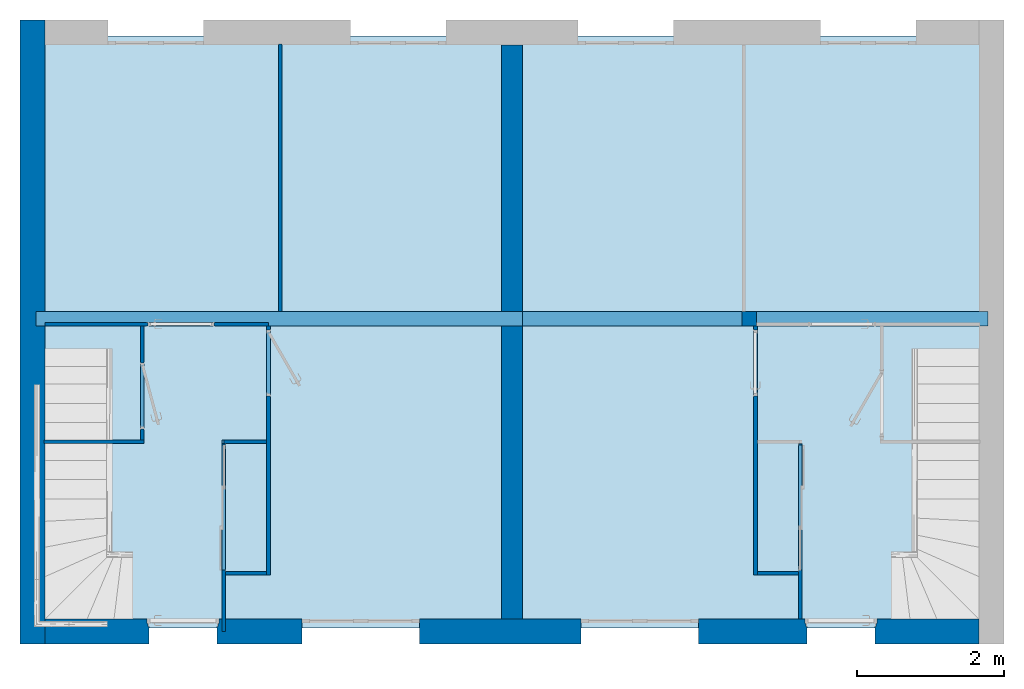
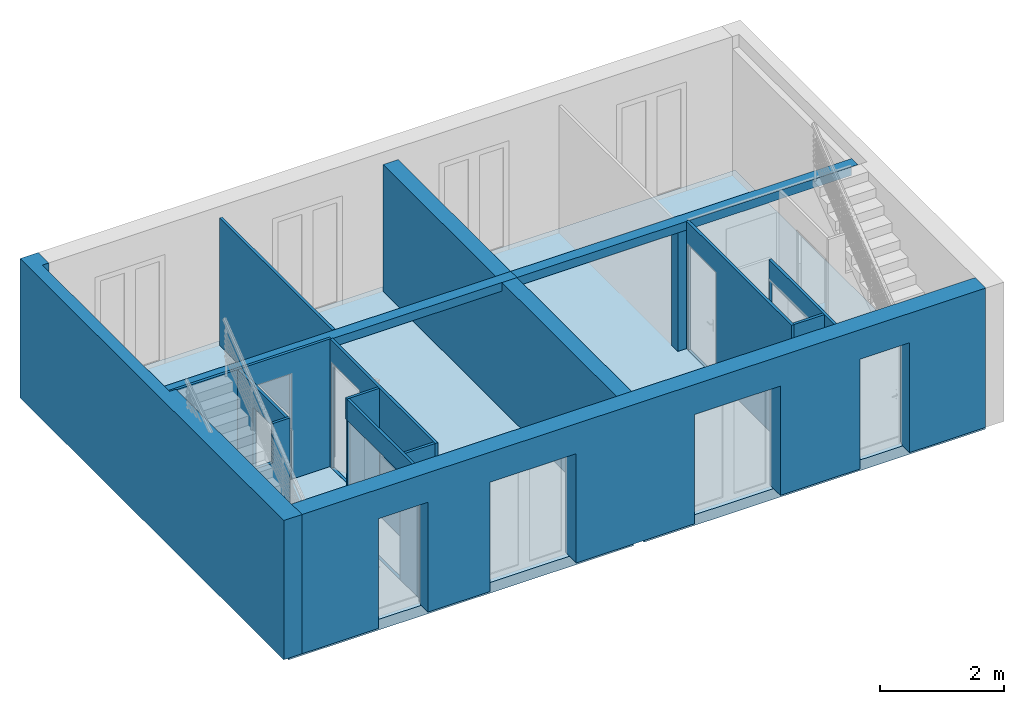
# One storey, part 1 of 13: 14 walls, 2 beams, 2 slabs, 1 column.
"""IFC2X3 building model written with IfcOpenShell, lengths in millimetres."""

from ifc_helpers import new_model, entity, si_unit, converted_unit, direction, frame, origin, origin_with_axes, place, context, project, spatial, faceted_brep, element, save


model = new_model("IFC2X3")

# Units and contexts
model_context = context("Model", 3, precision=1e-05, world=origin(), true_north=direction((0.0, 1.0, 0.0)))
ifc_project = project(units=[si_unit("LENGTHUNIT", "METRE", prefix="MILLI"), si_unit("AREAUNIT", "SQUARE_METRE"), si_unit("VOLUMEUNIT", "CUBIC_METRE"), converted_unit("PLANEANGLEUNIT", "DEGREE", entity("IfcPlaneAngleMeasure", 0.01745), si_unit("PLANEANGLEUNIT", "RADIAN"), dimensions=[0, 0, 0, 0, 0, 0, 0]), si_unit("SOLIDANGLEUNIT", "STERADIAN"), si_unit("MASSUNIT", "GRAM"), si_unit("TIMEUNIT", "SECOND"), si_unit("THERMODYNAMICTEMPERATUREUNIT", "DEGREE_CELSIUS"), si_unit("LUMINOUSINTENSITYUNIT", "LUMEN")], contexts=[model_context])

# Site, building, storey
placement = place(None, origin_with_axes())
site_placement = place(placement, frame((11636.08881703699, 2815.7442167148, 4.768371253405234e-06), z_axis=(0.0, 0.0, 1.0), x_axis=(1.0, 0.0, 0.0)))
site = spatial("IfcSite", under=ifc_project, at=site_placement, Name="Surface", CompositionType="ELEMENT")
building_placement = place(placement, origin_with_axes())
building = spatial("IfcBuilding", under=site, at=building_placement, Name="Default Building", CompositionType="ELEMENT")
storey_placement = place(building_placement, origin_with_axes())
storey = spatial("IfcBuildingStorey", under=building, at=storey_placement, Name="Rez de chaussée", CompositionType="ELEMENT", Elevation=0.0)

# Column
column_placement = place(storey_placement, frame((11636.08881703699, 2815.7442167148, 4.768371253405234e-06), z_axis=(0.0, 0.0, 1.0), x_axis=(1.0, 0.0, 0.0)))
element("IfcColumn", 1, at=column_placement, inside=storey, Name="IfcColumn - Poteau rectangulaire:200 x 200 mm", context=model_context, shape_type="Brep", body=[
    faceted_brep([(-1806.088820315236, 1714.255784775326, 2330.00002861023), (-1606.088817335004, 1514.255781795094, 2330.00002861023), (-1606.088817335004, 1714.255784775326, 2330.00002861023), (-1806.088820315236, 1514.255781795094, 2330.00002861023), (-1606.088817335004, 1714.255784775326, -610.0000286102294), (-1806.088820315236, 1514.255781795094, -610.0000286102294), (-1806.088820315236, 1714.255784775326, -610.0000286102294), (-1606.088817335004, 1514.255781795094, -610.0000286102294)], [[[0, 1, 2]], [[0, 3, 1]], [[4, 5, 6]], [[4, 7, 5]], [[3, 6, 5]], [[3, 0, 6]], [[1, 5, 7]], [[1, 3, 5]], [[2, 7, 4]], [[2, 1, 7]], [[0, 4, 6]], [[0, 2, 4]]]),
])

# Beams
beam_1_placement = place(storey_placement, frame((11636.08881703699, 2815.7442167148, 4.768371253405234e-06), z_axis=(0.0, 0.0, 1.0), x_axis=(1.0, 0.0, 0.0)))
element("IfcBeam", 2, at=beam_1_placement, inside=storey, Name="IfcBeam - Poutre rectangulaire - Béton:200 x 400 mm", context=model_context, shape_type="Brep", body=[
    faceted_brep([(-4796.088895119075, 1514.255781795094, 2500.000000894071), (1543.911257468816, 1714.255784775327, 2500.000000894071), (-4796.088895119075, 1714.255784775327, 2500.000000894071), (1543.911257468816, 1514.255781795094, 2500.000000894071), (1543.911257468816, 1514.255781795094, 2497.999996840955), (1543.911257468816, 1714.255784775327, 2497.999996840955), (1423.911133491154, 1514.255781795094, 2497.999996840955), (1423.911133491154, 1714.255784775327, 2497.999996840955), (-4796.088895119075, 1514.255781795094, 2329.999999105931), (-4796.088895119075, 1714.255784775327, 2497.999996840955), (-4796.088895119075, 1714.255784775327, 2329.999999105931), (1423.911133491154, 1514.255781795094, 2329.999999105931), (1423.911133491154, 1714.255784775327, 2329.999999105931), (-4796.088895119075, 1514.255781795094, 2497.999996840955)], [[[0, 1, 2]], [[0, 3, 1]], [[4, 1, 3]], [[4, 5, 1]], [[6, 5, 4]], [[6, 7, 5]], [[2, 8, 0]], [[9, 8, 2]], [[8, 9, 10]], [[7, 11, 12]], [[7, 6, 11]], [[9, 12, 10]], [[9, 7, 12]], [[2, 5, 9]], [[5, 2, 1]], [[12, 8, 10]], [[12, 11, 8]], [[8, 6, 13]], [[6, 8, 11]], [[13, 3, 0]], [[6, 3, 13]], [[3, 6, 4]]]),
])
beam_2_placement = place(storey_placement, frame((11636.08881703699, 2815.7442167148, 4.768371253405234e-06), z_axis=(0.0, 0.0, 1.0), x_axis=(1.0, 0.0, 0.0)))
element("IfcBeam", 3, at=beam_2_placement, inside=storey, Name="IfcBeam - Poutre rectangulaire - Béton:200 x 400 mm", context=model_context, shape_type="Brep", body=[
    faceted_brep([(-11416.08876160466, 1514.255781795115, 2500.000000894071), (-4796.088876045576, 1714.255784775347, 2500.000000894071), (-11416.08876160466, 1714.255784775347, 2500.000000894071), (-4796.088876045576, 1514.255781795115, 2500.000000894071), (-4796.088876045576, 1514.255781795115, 2497.999996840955), (-4796.088876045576, 1714.255784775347, 2497.999996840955), (-11416.08876160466, 1714.255784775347, 2497.999996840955), (-11416.08876160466, 1514.255781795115, 2497.999996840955), (-11296.08887604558, 1714.255784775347, 2497.999996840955), (-11296.08887604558, 1514.255781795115, 2497.999996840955), (-5076.088847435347, 1514.255781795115, 2497.999996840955), (-5076.088847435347, 1714.255784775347, 2497.999996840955), (-11296.08887604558, 1714.255784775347, 2329.999999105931), (-11296.08887604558, 1514.255781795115, 2329.999999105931), (-5076.088847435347, 1514.255781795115, 2329.999999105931), (-5076.088847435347, 1714.255784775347, 2329.999999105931)], [[[0, 1, 2]], [[0, 3, 1]], [[4, 1, 3]], [[4, 5, 1]], [[6, 0, 2]], [[6, 7, 0]], [[8, 7, 6]], [[8, 9, 7]], [[10, 5, 4]], [[10, 11, 5]], [[9, 12, 13]], [[9, 8, 12]], [[11, 14, 15]], [[11, 10, 14]], [[2, 5, 6]], [[5, 2, 1]], [[8, 15, 12]], [[15, 8, 11]], [[15, 13, 12]], [[15, 14, 13]], [[13, 10, 9]], [[10, 13, 14]], [[7, 3, 0]], [[9, 3, 7]], [[10, 3, 9]], [[3, 10, 4]]]),
])

# Slabs
slab_1_placement = place(storey_placement, frame((11636.08881703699, 2815.7442167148, 4.768371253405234e-06), z_axis=(0.0, 0.0, 1.0), x_axis=(1.0, 0.0, 0.0)))
element("IfcSlab", 4, at=slab_1_placement, inside=storey, Name="IfcSlab - Sol:Dalle en béton - 13", context=model_context, shape_type="Brep", body=[
    faceted_brep([(-11416.08874253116, -2595.744426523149, -209.9999967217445), (-5006.088895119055, 5464.25599309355, -209.9999967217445), (-5006.088895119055, -2595.744426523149, -209.9999967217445), (-11416.08874253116, 5464.25599309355, -209.9999967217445), (-5006.088895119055, -2595.744426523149, -3.278255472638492e-06), (-11416.08874253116, 5464.25599309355, -3.278255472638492e-06), (-11416.08874253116, -2595.744426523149, -3.278255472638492e-06), (-5006.088895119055, 5464.25599309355, -3.278255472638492e-06)], [[[0, 1, 2]], [[0, 3, 1]], [[4, 5, 6]], [[4, 7, 5]], [[3, 6, 5]], [[3, 0, 6]], [[1, 5, 7]], [[1, 3, 5]], [[2, 7, 4]], [[2, 1, 7]], [[0, 4, 6]], [[0, 2, 4]]]),
])
slab_2_placement = place(storey_placement, frame((11636.08881703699, 2815.7442167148, 4.768371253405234e-06), z_axis=(0.0, 0.0, 1.0), x_axis=(1.0, 0.0, 0.0)))
element("IfcSlab", 5, at=slab_2_placement, inside=storey, Name="IfcSlab - Sol:Dalle en béton - 13", context=model_context, shape_type="Brep", body=[
    faceted_brep([(-4806.088771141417, -2595.744426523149, -209.9999967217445), (1543.911133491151, 5464.25599309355, -209.9999967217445), (1543.911133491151, -2595.744426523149, -209.9999967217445), (-4806.088771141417, 5464.25599309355, -209.9999967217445), (1543.911133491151, -2595.744426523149, -3.278255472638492e-06), (-4806.088771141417, 5464.25599309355, -3.278255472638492e-06), (-4806.088771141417, -2595.744426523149, -3.278255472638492e-06), (1543.911133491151, 5464.25599309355, -3.278255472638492e-06)], [[[0, 1, 2]], [[0, 3, 1]], [[4, 5, 6]], [[4, 7, 5]], [[3, 6, 5]], [[3, 0, 6]], [[1, 5, 7]], [[1, 3, 5]], [[2, 7, 4]], [[2, 1, 7]], [[0, 4, 6]], [[0, 2, 4]]]),
])

# Walls
wall_1_placement = place(storey_placement, frame((11636.08881703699, 2815.7442167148, 4.768371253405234e-06), z_axis=(0.0, 0.0, 1.0), x_axis=(1.0, 0.0, 0.0)))
element("IfcWallStandardCase", 6, at=wall_1_placement, inside=storey, Name="IfcWallStandardCase - Mur de base:Int. plâtre 50 mm", context=model_context, shape_type="Brep", body=[
    faceted_brep([(-986.0888184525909, -1805.744192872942, 2.220446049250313e-13), (-1036.088819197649, -105.7442643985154, 2.220446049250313e-13), (-1036.088819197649, -1805.744192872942, 2.220446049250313e-13), (-986.0888184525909, -105.7442643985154, 2.220446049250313e-13), (-1036.088819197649, -105.7442643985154, 2100.000023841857), (-986.0888184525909, -105.7442643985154, 2100.000023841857), (-1036.088819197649, -1805.744192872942, 2100.000023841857), (-986.0888184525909, -1805.744192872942, 2100.000023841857), (-986.0888184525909, -2475.744269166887, 2509.999990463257), (-1036.088819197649, -2475.744269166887, -9.999990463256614), (-986.0888184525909, -2475.744269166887, -9.999990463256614), (-1036.088819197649, -2475.744269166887, 2509.999990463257), (-1036.088819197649, -85.74416426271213, 2509.999990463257), (-986.0888184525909, -85.74416426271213, 2509.999990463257), (-986.0888184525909, -85.74416426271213, -9.999990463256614), (-1036.088819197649, -85.74416426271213, -9.999990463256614)], [[[0, 1, 2]], [[0, 3, 1]], [[3, 4, 1]], [[3, 5, 4]], [[5, 6, 4]], [[5, 7, 6]], [[7, 2, 6]], [[7, 0, 2]], [[8, 9, 10]], [[8, 11, 9]], [[12, 8, 13]], [[12, 11, 8]], [[14, 9, 15]], [[14, 10, 9]], [[10, 0, 8]], [[10, 3, 0]], [[3, 14, 5]], [[14, 3, 10]], [[7, 8, 0]], [[5, 8, 7]], [[5, 13, 8]], [[13, 5, 14]], [[15, 1, 12]], [[15, 2, 1]], [[2, 9, 6]], [[9, 2, 15]], [[4, 12, 1]], [[6, 12, 4]], [[6, 11, 12]], [[11, 6, 9]], [[12, 14, 15]], [[12, 13, 14]]]),
])
wall_2_placement = place(storey_placement, frame((11636.08881703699, 2815.7442167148, 4.768371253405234e-06), z_axis=(0.0, 0.0, 1.0), x_axis=(1.0, 0.0, 0.0)))
element("IfcWallStandardCase", 7, at=wall_2_placement, inside=storey, Name="IfcWallStandardCase - Mur de base:Int. plâtre 50 mm", context=model_context, shape_type="Brep", body=[
    faceted_brep([(-1596.088820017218, -1875.744217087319, 2509.999990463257), (-1036.088817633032, -1825.744216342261, 2509.999990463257), (-1596.088820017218, -1825.744216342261, 2509.999990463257), (-1036.088817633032, -1875.744217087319, 2509.999990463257), (-1596.088820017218, -1825.744216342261, -9.999990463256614), (-1036.088817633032, -1875.744217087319, -9.999990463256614), (-1596.088820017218, -1875.744217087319, -9.999990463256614), (-1036.088817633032, -1825.744216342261, -9.999990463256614)], [[[0, 1, 2]], [[0, 3, 1]], [[4, 5, 6]], [[4, 7, 5]], [[3, 6, 5]], [[3, 0, 6]], [[1, 5, 7]], [[1, 3, 5]], [[2, 7, 4]], [[2, 1, 7]], [[0, 4, 6]], [[0, 2, 4]]]),
])
wall_3_placement = place(storey_placement, frame((11636.08881703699, 2815.7442167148, 4.768371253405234e-06), z_axis=(0.0, 0.0, 1.0), x_axis=(1.0, 0.0, 0.0)))
element("IfcWallStandardCase", 8, at=wall_3_placement, inside=storey, Name="IfcWallStandardCase - Mur de base:Int. plâtre 50 mm", context=model_context, shape_type="Brep", body=[
    faceted_brep([(-1596.088818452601, 1464.255764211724, 2.220446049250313e-13), (-1646.088819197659, 1464.255764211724, 2074.999988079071), (-1646.088819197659, 1464.255764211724, 2.220446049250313e-13), (-1596.088818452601, 1464.255764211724, 2074.999988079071), (-1646.088819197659, 564.2557880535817, 2074.999988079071), (-1596.088818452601, 564.2557880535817, 2074.999988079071), (-1646.088819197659, 564.2557880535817, 2.220446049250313e-13), (-1596.088818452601, 564.2557880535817, 2.220446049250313e-13), (-1596.088818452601, -1875.744269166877, 2509.999990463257), (-1646.088819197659, -1875.744269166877, -9.999990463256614), (-1596.088818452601, -1875.744269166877, -9.999990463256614), (-1646.088819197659, -1875.744269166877, 2509.999990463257), (-1646.088819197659, 1514.255835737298, 2509.999990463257), (-1596.088818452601, 1514.255835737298, 2509.999990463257), (-1596.088818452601, 1514.255835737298, -9.999990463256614), (-1646.088819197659, 1514.255835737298, -9.999990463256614)], [[[0, 1, 2]], [[0, 3, 1]], [[3, 4, 1]], [[3, 5, 4]], [[5, 6, 4]], [[5, 7, 6]], [[7, 2, 6]], [[7, 0, 2]], [[8, 9, 10]], [[8, 11, 9]], [[12, 8, 13]], [[12, 11, 8]], [[14, 9, 15]], [[14, 10, 9]], [[10, 0, 7]], [[0, 14, 3]], [[14, 0, 10]], [[7, 8, 10]], [[5, 8, 7]], [[3, 8, 5]], [[3, 13, 8]], [[13, 3, 14]], [[15, 2, 12]], [[15, 6, 2]], [[6, 9, 4]], [[9, 6, 15]], [[1, 12, 2]], [[4, 12, 1]], [[4, 11, 12]], [[11, 4, 9]], [[12, 14, 15]], [[12, 13, 14]]]),
])
wall_4_placement = place(storey_placement, frame((11636.08881703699, 2815.7442167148, 4.768371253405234e-06), z_axis=(0.0, 0.0, 1.0), x_axis=(1.0, 0.0, 0.0)))
element("IfcWallStandardCase", 9, at=wall_4_placement, inside=storey, Name="IfcWallStandardCase - Mur de base:Int. plâtre 50 mm", context=model_context, shape_type="Brep", body=[
    faceted_brep([(-8886.088819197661, -105.7442262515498, 2.220446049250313e-13), (-8836.088818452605, -1805.744214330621, 2.220446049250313e-13), (-8836.088818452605, -105.7442262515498, 2.220446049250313e-13), (-8886.088819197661, -1805.744214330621, 2.220446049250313e-13), (-8836.088818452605, -1805.744214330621, 2100.000023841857), (-8886.088819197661, -1805.744214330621, 2100.000023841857), (-8836.088818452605, -105.7442262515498, 2100.000023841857), (-8886.088819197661, -105.7442262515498, 2100.000023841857), (-8886.088819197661, -85.7442453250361, 2509.999990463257), (-8836.088818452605, -85.7442453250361, -9.999990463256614), (-8886.088819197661, -85.7442453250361, -9.999990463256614), (-8836.088818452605, -85.7442453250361, 2509.999990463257), (-8836.088818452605, -2645.744188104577, 2509.999990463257), (-8886.088819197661, -2645.744188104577, 2509.999990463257), (-8886.088819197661, -2645.744188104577, -9.999990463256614), (-8836.088818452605, -2645.744188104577, -9.999990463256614)], [[[0, 1, 2]], [[0, 3, 1]], [[3, 4, 1]], [[3, 5, 4]], [[5, 6, 4]], [[5, 7, 6]], [[7, 2, 6]], [[7, 0, 2]], [[8, 9, 10]], [[8, 11, 9]], [[12, 8, 13]], [[12, 11, 8]], [[14, 9, 15]], [[14, 10, 9]], [[10, 7, 8]], [[10, 0, 7]], [[10, 3, 0]], [[3, 14, 5]], [[14, 3, 10]], [[5, 8, 7]], [[5, 13, 8]], [[13, 5, 14]], [[15, 1, 12]], [[15, 2, 1]], [[2, 9, 6]], [[9, 2, 15]], [[4, 12, 1]], [[6, 12, 4]], [[6, 11, 12]], [[11, 6, 9]], [[12, 14, 15]], [[12, 13, 14]]]),
])
wall_5_placement = place(storey_placement, frame((11636.08881703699, 2815.7442167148, 4.768371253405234e-06), z_axis=(0.0, 0.0, 1.0), x_axis=(1.0, 0.0, 0.0)))
element("IfcWallStandardCase", 10, at=wall_5_placement, inside=storey, Name="IfcWallStandardCase - Mur de base:Int. plâtre 50 mm", context=model_context, shape_type="Brep", body=[
    faceted_brep([(-8836.088820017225, -1875.744217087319, 2509.999990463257), (-8276.088817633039, -1825.744216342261, 2509.999990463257), (-8836.088820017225, -1825.744216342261, 2509.999990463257), (-8276.088817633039, -1875.744217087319, 2509.999990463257), (-8836.088820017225, -1825.744216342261, -9.999990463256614), (-8276.088817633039, -1875.744217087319, -9.999990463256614), (-8836.088820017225, -1875.744217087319, -9.999990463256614), (-8276.088817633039, -1825.744216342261, -9.999990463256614)], [[[0, 1, 2]], [[0, 3, 1]], [[4, 5, 6]], [[4, 7, 5]], [[3, 6, 5]], [[3, 0, 6]], [[1, 5, 7]], [[1, 3, 5]], [[2, 7, 4]], [[2, 1, 7]], [[0, 4, 6]], [[0, 2, 4]]]),
])
wall_6_placement = place(storey_placement, frame((11636.08881703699, 2815.7442167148, 4.768371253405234e-06), z_axis=(0.0, 0.0, 1.0), x_axis=(1.0, 0.0, 0.0)))
element("IfcWallStandardCase", 11, at=wall_6_placement, inside=storey, Name="IfcWallStandardCase - Mur de base:Int. plâtre 50 mm", context=model_context, shape_type="Brep", body=[
    faceted_brep([(-8276.088819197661, 564.2557880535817, 2.220446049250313e-13), (-8226.088818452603, 564.2557880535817, 2074.999988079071), (-8226.088818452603, 564.2557880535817, 2.220446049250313e-13), (-8276.088819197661, 564.2557880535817, 2074.999988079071), (-8226.088818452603, 1464.255764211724, 2074.999988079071), (-8276.088819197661, 1464.255764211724, 2074.999988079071), (-8226.088818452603, 1464.255764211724, 2.220446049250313e-13), (-8276.088819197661, 1464.255764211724, 2.220446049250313e-13), (-8276.088819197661, 1514.255835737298, 2509.999990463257), (-8226.088818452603, 1514.255835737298, -9.999990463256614), (-8276.088819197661, 1514.255835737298, -9.999990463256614), (-8226.088818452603, 1514.255835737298, 2509.999990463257), (-8226.088818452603, -1875.744269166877, 2509.999990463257), (-8276.088819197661, -1875.744269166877, 2509.999990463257), (-8276.088819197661, -1875.744269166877, -9.999990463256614), (-8226.088818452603, -1875.744269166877, -9.999990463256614)], [[[0, 1, 2]], [[0, 3, 1]], [[3, 4, 1]], [[3, 5, 4]], [[5, 6, 4]], [[5, 7, 6]], [[7, 2, 6]], [[7, 0, 2]], [[8, 9, 10]], [[8, 11, 9]], [[12, 8, 13]], [[12, 11, 8]], [[14, 9, 15]], [[14, 10, 9]], [[10, 7, 8]], [[10, 0, 7]], [[0, 14, 3]], [[14, 0, 10]], [[5, 8, 7]], [[3, 8, 5]], [[3, 13, 8]], [[13, 3, 14]], [[15, 2, 12]], [[15, 6, 2]], [[6, 9, 4]], [[9, 6, 15]], [[1, 12, 2]], [[4, 12, 1]], [[4, 11, 12]], [[11, 4, 9]], [[12, 14, 15]], [[12, 13, 14]]]),
])
wall_7_placement = place(storey_placement, frame((11636.08881703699, 2815.7442167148, 4.768371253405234e-06), z_axis=(0.0, 0.0, 1.0), x_axis=(1.0, 0.0, 0.0)))
element("IfcWallStandardCase", 12, at=wall_7_placement, inside=storey, Name="IfcWallStandardCase - Mur de base:Int. plâtre 50 mm", context=model_context, shape_type="Brep", body=[
    faceted_brep([(-9996.088819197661, 114.2557832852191, 2.220446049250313e-13), (-9946.088818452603, 114.2557832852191, 2074.999988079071), (-9946.088818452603, 114.2557832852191, 2.220446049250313e-13), (-9996.088819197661, 114.2557832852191, 2074.999988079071), (-9946.088818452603, 1014.255789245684, 2074.999988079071), (-9996.088819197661, 1014.255789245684, 2074.999988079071), (-9946.088818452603, 1014.255789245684, 2.220446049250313e-13), (-9996.088819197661, 1014.255789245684, 2.220446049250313e-13), (-9996.088819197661, 1514.255759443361, 2509.999990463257), (-9946.088818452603, 1514.255759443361, -9.999990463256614), (-9996.088819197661, 1514.255759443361, -9.999990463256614), (-9946.088818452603, 1514.255759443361, 2509.999990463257), (-9946.088818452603, -35.74419287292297, 2509.999990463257), (-9996.088819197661, -35.74419287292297, 2509.999990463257), (-9996.088819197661, -35.74419287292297, -9.999990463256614), (-9946.088818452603, -35.74419287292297, -9.999990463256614)], [[[0, 1, 2]], [[0, 3, 1]], [[3, 4, 1]], [[3, 5, 4]], [[5, 6, 4]], [[5, 7, 6]], [[7, 2, 6]], [[7, 0, 2]], [[8, 9, 10]], [[8, 11, 9]], [[12, 8, 13]], [[12, 11, 8]], [[14, 9, 15]], [[14, 10, 9]], [[10, 7, 8]], [[10, 0, 7]], [[0, 14, 3]], [[14, 0, 10]], [[5, 8, 7]], [[3, 8, 5]], [[3, 13, 8]], [[13, 3, 14]], [[15, 2, 12]], [[15, 6, 2]], [[6, 9, 4]], [[9, 6, 15]], [[1, 12, 2]], [[4, 12, 1]], [[4, 11, 12]], [[11, 4, 9]], [[12, 14, 15]], [[12, 13, 14]]]),
])
wall_8_placement = place(storey_placement, frame((11636.08881703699, 2815.7442167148, 4.768371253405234e-06), z_axis=(0.0, 0.0, 1.0), x_axis=(1.0, 0.0, 0.0)))
element("IfcWallStandardCase", 13, at=wall_8_placement, inside=storey, Name="IfcWallStandardCase - Mur de base:Int. plâtre 50 mm", context=model_context, shape_type="Brep", body=[
    faceted_brep([(-8996.088845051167, 1514.255782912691, 2.220446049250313e-13), (-8996.088845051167, 1564.255783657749, 2074.999988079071), (-8996.088845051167, 1564.255783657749, 2.220446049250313e-13), (-8996.088845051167, 1514.255782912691, 2074.999988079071), (-9896.088821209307, 1564.255783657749, 2074.999988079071), (-9896.088821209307, 1514.255782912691, 2074.999988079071), (-9896.088821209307, 1564.255783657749, 2.220446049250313e-13), (-9896.088821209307, 1514.255782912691, 2.220446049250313e-13), (-11296.08885697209, 1514.255782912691, 2509.999990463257), (-11296.08885697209, 1564.255783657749, -9.999990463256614), (-11296.08885697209, 1514.255782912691, -9.999990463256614), (-11296.08885697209, 1564.255783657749, 2509.999990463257), (-8251.088780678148, 1564.255783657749, 2509.999990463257), (-8251.088780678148, 1514.255782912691, 2509.999990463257), (-8251.088780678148, 1514.255782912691, -9.999990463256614), (-8251.088780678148, 1564.255783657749, -9.999990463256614)], [[[0, 1, 2]], [[0, 3, 1]], [[3, 4, 1]], [[3, 5, 4]], [[5, 6, 4]], [[5, 7, 6]], [[7, 2, 6]], [[7, 0, 2]], [[8, 9, 10]], [[8, 11, 9]], [[12, 8, 13]], [[12, 11, 8]], [[14, 9, 15]], [[14, 10, 9]], [[10, 7, 8]], [[10, 0, 7]], [[0, 14, 3]], [[14, 0, 10]], [[5, 8, 7]], [[3, 8, 5]], [[3, 13, 8]], [[13, 3, 14]], [[15, 2, 12]], [[15, 6, 2]], [[6, 9, 4]], [[9, 6, 15]], [[1, 12, 2]], [[4, 12, 1]], [[4, 11, 12]], [[11, 4, 9]], [[12, 14, 15]], [[12, 13, 14]]]),
])
wall_9_placement = place(storey_placement, frame((11636.08881703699, 2815.7442167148, 4.768371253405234e-06), z_axis=(0.0, 0.0, 1.0), x_axis=(1.0, 0.0, 0.0)))
element("IfcWallStandardCase", 14, at=wall_9_placement, inside=storey, Name="IfcWallStandardCase - Mur de base:Int. plâtre 50 mm", context=model_context, shape_type="Brep", body=[
    faceted_brep([(-8066.088818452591, 1714.255730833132, 2509.999990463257), (-8116.088819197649, 5354.255835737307, 2509.999990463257), (-8116.088819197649, 1714.255730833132, 2509.999990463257), (-8066.088818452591, 5354.255835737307, 2509.999990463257), (-8116.088819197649, 1714.255730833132, -9.999990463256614), (-8066.088818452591, 5354.255835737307, -9.999990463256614), (-8066.088818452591, 1714.255730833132, -9.999990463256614), (-8116.088819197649, 5354.255835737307, -9.999990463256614)], [[[0, 1, 2]], [[0, 3, 1]], [[4, 5, 6]], [[4, 7, 5]], [[3, 6, 5]], [[3, 0, 6]], [[1, 5, 7]], [[1, 3, 5]], [[2, 7, 4]], [[2, 1, 7]], [[0, 4, 6]], [[0, 2, 4]]]),
])
wall_10_placement = place(storey_placement, frame((11636.08881703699, 2815.7442167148, 4.768371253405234e-06), z_axis=(0.0, 0.0, 1.0), x_axis=(1.0, 0.0, 0.0)))
element("IfcWallStandardCase", 15, at=wall_10_placement, inside=storey, Name="IfcWallStandardCase - Mur de base:Mur de base Refend Ext. Parpaing 20 + Isolant 7", context=model_context, shape_type="Brep", body=[
    faceted_brep([(-4796.088818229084, -2475.744302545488, 2497.999953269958), (-5076.088819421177, 5344.255869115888, 2497.999953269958), (-5076.088819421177, -2475.744302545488, 2497.999953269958), (-4796.088818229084, 5344.255869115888, 2497.999953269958), (-5076.088819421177, -2475.744302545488, 4.673004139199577e-05), (-4796.088818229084, 5344.255869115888, 4.673004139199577e-05), (-4796.088818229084, -2475.744302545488, 4.673004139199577e-05), (-5076.088819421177, 5344.255869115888, 4.673004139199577e-05)], [[[0, 1, 2]], [[0, 3, 1]], [[4, 5, 6]], [[4, 7, 5]], [[3, 6, 5]], [[3, 0, 6]], [[1, 5, 7]], [[1, 3, 5]], [[2, 7, 4]], [[2, 1, 7]], [[0, 4, 6]], [[0, 2, 4]]]),
])
wall_11_placement = place(storey_placement, frame((11636.08881703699, 2815.7442167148, 4.768371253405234e-06), z_axis=(0.0, 0.0, 1.0), x_axis=(1.0, 0.0, 0.0)))
element("IfcWallStandardCase", 16, at=wall_11_placement, inside=storey, Name="IfcWallStandardCase - Mur de base:Mur de base Ext. Parpaing 20 + Isolant 12", context=model_context, shape_type="Brep", body=[
    faceted_brep([(18.91110488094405, -2532.744218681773, 2175.000007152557), (-931.0887043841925, -2575.744216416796, 2175.000007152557), (-931.0887043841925, -2532.744218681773, 2175.000007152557), (18.91110488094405, -2575.744216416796, 2175.000007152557), (-9891.088742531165, -2532.744218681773, 2175.000007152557), (-8941.088933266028, -2575.744216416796, 2175.000007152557), (-9891.088742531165, -2575.744216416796, 2175.000007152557), (-8941.088933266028, -2532.744218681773, 2175.000007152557), (-8941.088933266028, -2532.744218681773, -4.76837147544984e-06), (-8941.088933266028, -2575.744216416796, -4.76837147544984e-06), (-931.0887043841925, -2532.744218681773, -4.76837147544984e-06), (-931.0887043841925, -2575.744216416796, -4.76837147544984e-06), (33.91097136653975, -2532.744218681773, 2189.999992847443), (-946.0888092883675, -2532.744218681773, 2189.999992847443), (33.91097136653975, -2532.744218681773, -4.76837147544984e-06), (18.91110488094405, -2532.744218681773, -4.76837147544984e-06), (-946.0888092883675, -2532.744218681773, -4.76837147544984e-06), (18.91110488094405, -2575.744216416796, -4.76837147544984e-06), (-916.0888378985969, -2575.744216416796, 2160.000021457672), (3.911238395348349, -2575.744216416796, 2160.000021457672), (3.911238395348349, -2575.744216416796, -4.76837147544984e-06), (-916.0888378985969, -2575.744216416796, -4.76837147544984e-06), (-8956.088799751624, -2575.744216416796, 2160.000021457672), (-8956.088799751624, -2575.744216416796, -4.76837147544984e-06), (-9876.08887604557, -2575.744216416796, 2160.000021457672), (-9876.08887604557, -2575.744216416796, -4.76837147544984e-06), (-9891.088742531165, -2575.744216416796, -4.76837147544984e-06), (-9891.088742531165, -2532.744218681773, -4.76837147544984e-06), (-9906.08860901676, -2532.744218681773, 2189.999992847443), (-9906.08860901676, -2532.744218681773, -4.76837147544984e-06), (-8926.088828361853, -2532.744218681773, 2189.999992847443), (-8926.088828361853, -2532.744218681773, -4.76837147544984e-06), (33.91097136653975, -2475.74421492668, -4.76837147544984e-06), (33.91097136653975, -2475.74421492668, 2189.999992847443), (-946.0888092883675, -2475.74421492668, 2189.999992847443), (-946.0888092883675, -2475.74421492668, -4.76837147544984e-06), (-8926.088828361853, -2475.74421492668, -4.76837147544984e-06), (-8926.088828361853, -2475.74421492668, 2189.999992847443), (-9906.08860901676, -2475.74421492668, 2189.999992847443), (-9906.08860901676, -2475.74421492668, -4.76837147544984e-06), (1423.911314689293, -2475.74421492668, 2740.000004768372), (1423.911314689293, -2815.744218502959, -4.76837147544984e-06), (1423.911314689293, -2475.74421492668, -4.76837147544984e-06), (1423.911314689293, -2815.744218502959, 2740.000004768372), (-9876.08887604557, -2815.744218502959, -4.76837147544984e-06), (-9876.08887604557, -2815.744218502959, 2160.000021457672), (-8956.088799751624, -2815.744218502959, 2160.000021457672), (-8956.088799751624, -2815.744218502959, -4.76837147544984e-06), (-7796.088713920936, -2815.744218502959, -4.76837147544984e-06), (-7796.088713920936, -2475.74421492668, -4.76837147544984e-06), (-7796.088713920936, -2815.744218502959, 2149.999971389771), (-7796.088713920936, -2475.74421492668, 2149.999971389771), (-6196.088809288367, -2815.744218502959, 2149.999971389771), (-6196.088809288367, -2475.74421492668, 2149.999971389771), (-6196.088809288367, -2815.744218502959, -4.76837147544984e-06), (-6196.088809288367, -2475.74421492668, -4.76837147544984e-06), (-3996.088821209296, -2815.744218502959, -4.76837147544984e-06), (-3996.088821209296, -2475.74421492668, -4.76837147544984e-06), (-3996.088821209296, -2815.744218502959, 2149.999971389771), (-3996.088821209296, -2475.74421492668, 2149.999971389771), (-2396.088856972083, -2815.744218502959, 2149.999971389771), (-2396.088856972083, -2475.74421492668, 2149.999971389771), (-2396.088856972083, -2815.744218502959, -4.76837147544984e-06), (-2396.088856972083, -2475.74421492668, -4.76837147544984e-06), (-916.0888378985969, -2815.744218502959, -4.76837147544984e-06), (-916.0888378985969, -2815.744218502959, 2160.000021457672), (3.911238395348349, -2815.744218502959, 2160.000021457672), (3.911238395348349, -2815.744218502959, -4.76837147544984e-06), (-11296.08895233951, -2815.744218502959, 2740.000004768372), (-11296.08895233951, -2475.74421492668, 2740.000004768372), (-11296.08895233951, -2815.744218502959, -4.76837147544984e-06), (-11296.08895233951, -2475.74421492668, -4.76837147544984e-06)], [[[0, 1, 2]], [[0, 3, 1]], [[4, 5, 6]], [[4, 7, 5]], [[5, 8, 9]], [[5, 7, 8]], [[1, 10, 2]], [[1, 11, 10]], [[12, 0, 13]], [[14, 0, 12]], [[0, 14, 15]], [[2, 13, 0]], [[10, 13, 2]], [[13, 10, 16]], [[15, 3, 0]], [[15, 17, 3]], [[1, 18, 11]], [[1, 19, 18]], [[3, 19, 1]], [[3, 20, 19]], [[20, 3, 17]], [[11, 18, 21]], [[5, 22, 6]], [[9, 22, 5]], [[22, 9, 23]], [[24, 6, 22]], [[25, 6, 24]], [[6, 25, 26]], [[27, 6, 26]], [[27, 4, 6]], [[28, 4, 29]], [[28, 7, 4]], [[30, 7, 28]], [[30, 8, 7]], [[8, 30, 31]], [[29, 4, 27]], [[32, 12, 33]], [[32, 14, 12]], [[12, 34, 33]], [[12, 13, 34]], [[13, 35, 34]], [[13, 16, 35]], [[30, 36, 31]], [[30, 37, 36]], [[28, 37, 30]], [[28, 38, 37]], [[39, 28, 29]], [[39, 38, 28]], [[40, 41, 42]], [[40, 43, 41]], [[44, 24, 45]], [[44, 25, 24]], [[45, 22, 46]], [[45, 24, 22]], [[46, 23, 47]], [[46, 22, 23]], [[48, 9, 31]], [[47, 9, 48]], [[9, 47, 23]], [[31, 49, 48]], [[49, 31, 36]], [[31, 9, 8]], [[50, 49, 51]], [[50, 48, 49]], [[52, 51, 53]], [[52, 50, 51]], [[54, 53, 55]], [[54, 52, 53]], [[55, 56, 54]], [[55, 57, 56]], [[58, 57, 59]], [[58, 56, 57]], [[60, 59, 61]], [[60, 58, 59]], [[62, 61, 63]], [[62, 60, 61]], [[64, 11, 21]], [[11, 16, 10]], [[64, 16, 11]], [[16, 63, 35]], [[64, 63, 16]], [[63, 64, 62]], [[64, 18, 65]], [[64, 21, 18]], [[66, 18, 19]], [[66, 65, 18]], [[67, 19, 20]], [[67, 66, 19]], [[41, 14, 42]], [[41, 17, 14]], [[41, 20, 17]], [[20, 41, 67]], [[42, 14, 32]], [[14, 17, 15]], [[68, 40, 69]], [[68, 43, 40]], [[44, 26, 25]], [[26, 29, 27]], [[44, 29, 26]], [[70, 29, 44]], [[70, 39, 29]], [[39, 70, 71]], [[57, 53, 59]], [[53, 57, 55]], [[34, 61, 37]], [[35, 61, 34]], [[61, 35, 63]], [[40, 33, 69]], [[42, 33, 40]], [[33, 42, 32]], [[34, 69, 33]], [[37, 69, 34]], [[38, 69, 37]], [[39, 69, 38]], [[69, 39, 71]], [[59, 37, 61]], [[53, 37, 59]], [[51, 37, 53]], [[49, 37, 51]], [[37, 49, 36]], [[54, 58, 52]], [[58, 54, 56]], [[46, 50, 65]], [[47, 50, 46]], [[50, 47, 48]], [[68, 45, 43]], [[70, 45, 68]], [[45, 70, 44]], [[46, 43, 45]], [[65, 43, 46]], [[66, 43, 65]], [[67, 43, 66]], [[43, 67, 41]], [[52, 65, 50]], [[58, 65, 52]], [[60, 65, 58]], [[62, 65, 60]], [[65, 62, 64]], [[68, 71, 70]], [[68, 69, 71]]]),
])
wall_12_placement = place(storey_placement, frame((11636.08881703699, 2815.7442167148, 4.768371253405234e-06), z_axis=(0.0, 0.0, 1.0), x_axis=(1.0, 0.0, 0.0)))
element("IfcWallStandardCase", 17, at=wall_12_placement, inside=storey, Name="IfcWallStandardCase - Mur de base:Int. plâtre 50 mm", context=model_context, shape_type="Brep", body=[
    faceted_brep([(-8861.088820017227, -35.74421634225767, 2100.000023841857), (-8861.088820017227, -85.74421708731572, 2.220446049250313e-13), (-8861.088820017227, -85.74421708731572, 2100.000023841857), (-8861.088820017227, -35.74421634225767, 2.220446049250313e-13), (-8886.088825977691, -35.74421634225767, 2100.000023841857), (-8886.088825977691, -85.74421708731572, 2100.000023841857), (-8886.088825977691, -35.74421634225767, 2509.999990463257), (-8886.088825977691, -85.74421708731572, 2509.999990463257), (-8276.088811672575, -35.74421634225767, 2509.999990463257), (-8276.088811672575, -85.74421708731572, 2509.999990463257), (-8276.088811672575, -85.74421708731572, -9.999990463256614), (-8276.088811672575, -35.74421634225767, -9.999990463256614), (-8886.088825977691, -85.74421708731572, -9.999990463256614), (-8886.088825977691, -85.74421708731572, 2.220446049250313e-13), (-8886.088825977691, -35.74421634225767, 2.220446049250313e-13), (-8886.088825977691, -35.74421634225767, -9.999990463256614)], [[[0, 1, 2]], [[0, 3, 1]], [[4, 2, 5]], [[4, 0, 2]], [[5, 6, 4]], [[5, 7, 6]], [[7, 8, 6]], [[7, 9, 8]], [[8, 10, 11]], [[8, 9, 10]], [[5, 9, 7]], [[2, 9, 5]], [[1, 9, 2]], [[12, 1, 13]], [[1, 10, 9]], [[10, 1, 12]], [[3, 13, 1]], [[3, 14, 13]], [[8, 0, 6]], [[8, 3, 0]], [[11, 3, 8]], [[11, 14, 3]], [[14, 11, 15]], [[6, 0, 4]], [[15, 10, 12]], [[15, 11, 10]], [[12, 14, 15]], [[12, 13, 14]]]),
])
wall_13_placement = place(storey_placement, frame((11636.08881703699, 2815.7442167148, 4.768371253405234e-06), z_axis=(0.0, 0.0, 1.0), x_axis=(1.0, 0.0, 0.0)))
element("IfcWallStandardCase", 18, at=wall_13_placement, inside=storey, Name="IfcWallStandardCase - Mur de base:Mur de base Ext. Parpaing 20 + Isolant 12", context=model_context, shape_type="Brep", body=[
    faceted_brep([(-11416.08881808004, 1245.96843573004, 2498.000020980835), (-11416.08881808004, 5344.255869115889, 2740.000004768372), (-11416.08881808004, 1245.96843573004, 2740.000004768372), (-11416.08881808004, 5344.255869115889, 2498.000020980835), (-11296.08881703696, 5344.255869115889, 2498.000020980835), (-11296.08881703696, 5344.255869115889, 2740.000004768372), (-11296.08881703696, 1245.96843573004, 2498.000020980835), (-11296.08881703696, 1245.96843573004, 2740.000004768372), (-11636.08882061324, -2475.744302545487, 2740.000004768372), (-11296.08881703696, -2475.744302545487, 2740.000004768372), (-11636.08882061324, 5344.255869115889, 2740.000004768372), (-11296.08881703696, -2815.744216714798, 2740.000004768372), (-11636.08882061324, -2815.744216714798, 2740.000004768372), (-11636.08882061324, -2815.744216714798, -4.768371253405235e-06), (-11296.08881703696, -2815.744216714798, -4.768371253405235e-06), (-11636.08882061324, 5684.255783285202, 2740.000004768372), (-11296.08881703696, 5684.255783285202, 2740.000004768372), (-11296.08881703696, 5684.255783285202, -4.768371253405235e-06), (-11636.08882061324, 5684.255783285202, -4.768371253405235e-06)], [[[0, 1, 2]], [[0, 3, 1]], [[1, 4, 5]], [[1, 3, 4]], [[4, 0, 6]], [[4, 3, 0]], [[6, 2, 7]], [[6, 0, 2]], [[7, 8, 9]], [[2, 8, 7]], [[1, 8, 2]], [[8, 1, 10]], [[8, 11, 9]], [[8, 12, 11]], [[11, 13, 14]], [[11, 12, 13]], [[5, 15, 10]], [[15, 5, 16]], [[17, 13, 18]], [[17, 14, 13]], [[11, 6, 7]], [[6, 14, 4]], [[14, 6, 11]], [[4, 16, 5]], [[4, 17, 16]], [[17, 4, 14]], [[18, 10, 15]], [[18, 8, 10]], [[13, 8, 18]], [[8, 13, 12]], [[15, 17, 18]], [[15, 16, 17]]]),
])
wall_14_placement = place(storey_placement, frame((11636.08881703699, 2815.7442167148, 4.768371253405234e-06), z_axis=(0.0, 0.0, 1.0), x_axis=(1.0, 0.0, 0.0)))
element("IfcWallStandardCase", 19, at=wall_14_placement, inside=storey, Name="IfcWallStandardCase - Mur de base:Int. plâtre 50 mm", context=model_context, shape_type="Brep", body=[
    faceted_brep([(-10262.09806732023, -35.74421634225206, 2507.333278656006), (-10262.09806732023, -85.74421708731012, 1733.999997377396), (-10262.09806732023, -85.74421708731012, 2507.333278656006), (-10262.09806732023, -35.74421634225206, 1733.999997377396), (-10257.94636539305, -35.74421634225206, 2509.999990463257), (-10257.94636539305, -85.74421708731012, 2509.999990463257), (-9946.088814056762, -35.74421634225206, 2509.999990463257), (-9946.088814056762, -85.74421708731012, 2509.999990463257), (-9946.088814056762, -85.74421708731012, -9.999990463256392), (-9946.088814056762, -35.74421634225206, -9.999990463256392), (-11311.0888235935, -85.74421708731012, 1733.999997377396), (-11311.0888235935, -85.74421708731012, -9.999990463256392), (-11311.0888235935, -35.74421634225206, 1733.999997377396), (-11311.0888235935, -35.74421634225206, -9.999990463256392)], [[[0, 1, 2]], [[0, 3, 1]], [[2, 4, 0]], [[2, 5, 4]], [[5, 6, 4]], [[5, 7, 6]], [[6, 8, 9]], [[6, 7, 8]], [[10, 11, 1]], [[2, 7, 5]], [[1, 7, 2]], [[1, 8, 7]], [[8, 1, 11]], [[12, 1, 3]], [[12, 10, 1]], [[6, 0, 4]], [[6, 3, 0]], [[3, 6, 9]], [[9, 12, 3]], [[12, 9, 13]], [[13, 8, 11]], [[13, 9, 8]], [[11, 12, 13]], [[11, 10, 12]]]),
])

save(model, "model.ifc")
